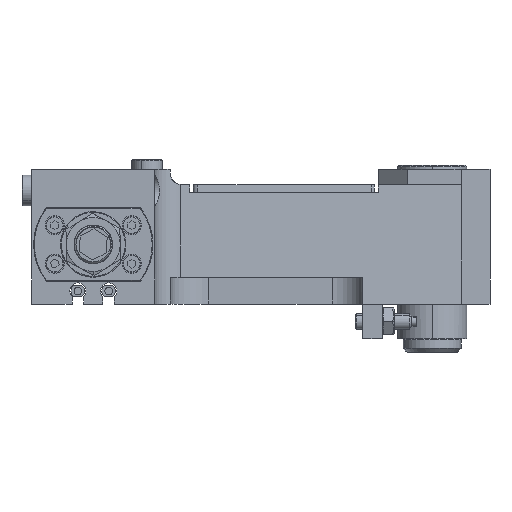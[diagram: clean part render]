
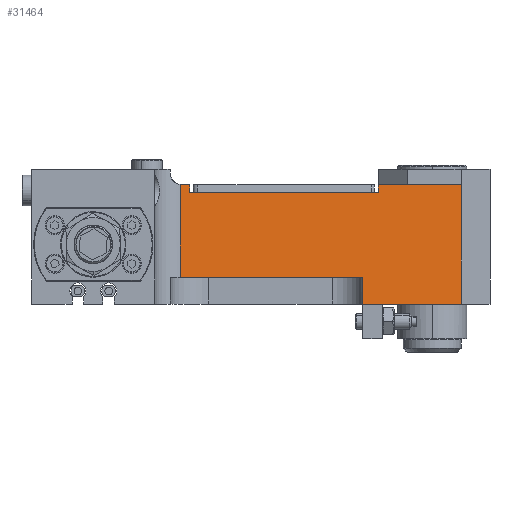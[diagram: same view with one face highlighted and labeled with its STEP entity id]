
A CAD part, left-side view. The second image highlights one B-rep face of the part: STEP entity #31464.
In plain terms, the highlighted planar face has unit normal (-0.985, -0.174, 0).
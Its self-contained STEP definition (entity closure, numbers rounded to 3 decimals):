
#667 = EDGE_CURVE ( 'NONE', #32571, #38422, #15158, .T. ) ;
#1738 = EDGE_CURVE ( 'NONE', #38422, #22868, #35104, .T. ) ;
#2967 = CARTESIAN_POINT ( 'NONE',  ( -18.791, -30.5, -22. ) ) ;
#4481 = DIRECTION ( 'NONE',  ( -0.174, 0.985, 0. ) ) ;
#4629 = DIRECTION ( 'NONE',  ( 0.985, 0.174, 0. ) ) ;
#5507 = CARTESIAN_POINT ( 'NONE',  ( -19.496, -26.5, -22. ) ) ;
#6098 = DIRECTION ( 'NONE',  ( -0.174, 0.985, 0. ) ) ;
#6336 = CARTESIAN_POINT ( 'NONE',  ( -29.018, 27.5, -13. ) ) ;
#7229 = DIRECTION ( 'NONE',  ( 0., 0., -1. ) ) ;
#7759 = LINE ( 'NONE', #2967, #27800 ) ;
#8170 = EDGE_CURVE ( 'NONE', #32202, #30604, #40549, .T. ) ;
#9395 = DIRECTION ( 'NONE',  ( 0., 0., -1. ) ) ;
#9726 = VECTOR ( 'NONE', #55033, 1000. ) ;
#9984 = CARTESIAN_POINT ( 'NONE',  ( -27.852, 20.889, -13. ) ) ;
#10786 = EDGE_CURVE ( 'NONE', #19759, #30604, #31637, .T. ) ;
#10824 = DIRECTION ( 'NONE',  ( -0.174, 0.985, 0. ) ) ;
#11276 = CARTESIAN_POINT ( 'NONE',  ( -27.852, 20.889, -6. ) ) ;
#12258 = VERTEX_POINT ( 'NONE', #23134 ) ;
#12491 = VECTOR ( 'NONE', #40455, 1000. ) ;
#12812 = AXIS2_PLACEMENT_3D ( 'NONE', #51221, #4629, #43044 ) ;
#13697 = CARTESIAN_POINT ( 'NONE',  ( -18.791, -30.5, 18. ) ) ;
#14056 = CARTESIAN_POINT ( 'NONE',  ( -15., -52., -13. ) ) ;
#14079 = EDGE_LOOP ( 'NONE', ( #51744, #48106, #15444, #43368, #45741, #27483, #23102, #41202, #26234, #47029, #52167 ) ) ;
#14202 = EDGE_CURVE ( 'NONE', #22868, #28997, #37465, .T. ) ;
#14335 = CARTESIAN_POINT ( 'NONE',  ( -27.852, 20.889, 18.025 ) ) ;
#14407 = CARTESIAN_POINT ( 'NONE',  ( -23.44, -4.133, 18. ) ) ;
#15158 = LINE ( 'NONE', #14407, #35848 ) ;
#15444 = ORIENTED_EDGE ( 'NONE', *, *, #14202, .T. ) ;
#16841 = CARTESIAN_POINT ( 'NONE',  ( -19.496, -26.5, -6. ) ) ;
#17897 = LINE ( 'NONE', #18589, #37218 ) ;
#18553 = CARTESIAN_POINT ( 'NONE',  ( -27.784, 20.5, 18. ) ) ;
#18589 = CARTESIAN_POINT ( 'NONE',  ( -29.018, 27.5, 16. ) ) ;
#18843 = VECTOR ( 'NONE', #48549, 1000. ) ;
#19572 = VECTOR ( 'NONE', #50418, 1000. ) ;
#19663 = LINE ( 'NONE', #31608, #49630 ) ;
#19727 = EDGE_CURVE ( 'NONE', #32202, #54524, #49086, .T. ) ;
#19759 = VERTEX_POINT ( 'NONE', #16841 ) ;
#20622 = CARTESIAN_POINT ( 'NONE',  ( -19.496, -26.5, -13. ) ) ;
#20627 = CARTESIAN_POINT ( 'NONE',  ( -27.431, 18.5, -22. ) ) ;
#22868 = VERTEX_POINT ( 'NONE', #14335 ) ;
#23005 = CARTESIAN_POINT ( 'NONE',  ( -27.83, 20.76, 18.008 ) ) ;
#23102 = ORIENTED_EDGE ( 'NONE', *, *, #19727, .T. ) ;
#23134 = CARTESIAN_POINT ( 'NONE',  ( -18.791, -30.5, 16. ) ) ;
#25243 = CARTESIAN_POINT ( 'NONE',  ( -15., -52., -22. ) ) ;
#25834 = CARTESIAN_POINT ( 'NONE',  ( -27.784, 20.5, 18. ) ) ;
#26234 = ORIENTED_EDGE ( 'NONE', *, *, #43026, .T. ) ;
#27094 = FACE_OUTER_BOUND ( 'NONE', #14079, .T. ) ;
#27483 = ORIENTED_EDGE ( 'NONE', *, *, #8170, .F. ) ;
#27800 = VECTOR ( 'NONE', #7229, 1000. ) ;
#27890 = VECTOR ( 'NONE', #4481, 1000. ) ;
#28927 = LINE ( 'NONE', #20627, #19572 ) ;
#28997 = VERTEX_POINT ( 'NONE', #11276 ) ;
#29286 = VERTEX_POINT ( 'NONE', #13697 ) ;
#29749 = EDGE_CURVE ( 'NONE', #54524, #29286, #48561, .T. ) ;
#29775 = EDGE_CURVE ( 'NONE', #51203, #12258, #17897, .T. ) ;
#29828 = CARTESIAN_POINT ( 'NONE',  ( -23.44, -4.133, 18. ) ) ;
#30604 = VERTEX_POINT ( 'NONE', #20622 ) ;
#31464 = ADVANCED_FACE ( 'NONE', ( #27094 ), #55318, .F. ) ;
#31608 = CARTESIAN_POINT ( 'NONE',  ( -29.018, 27.5, -6. ) ) ;
#31637 = LINE ( 'NONE', #5507, #46981 ) ;
#32202 = VERTEX_POINT ( 'NONE', #14056 ) ;
#32571 = VERTEX_POINT ( 'NONE', #46961 ) ;
#33184 = EDGE_CURVE ( 'NONE', #19759, #28997, #19663, .T. ) ;
#33436 = CARTESIAN_POINT ( 'NONE',  ( -27.431, 18.5, 16. ) ) ;
#33610 = CARTESIAN_POINT ( 'NONE',  ( -15., -52., 18. ) ) ;
#35104 =( BOUNDED_CURVE ( )  B_SPLINE_CURVE ( 3, ( #18553, #48518, #23005, #52278 ),
 .UNSPECIFIED., .F., .F. ) 
 B_SPLINE_CURVE_WITH_KNOTS ( ( 4, 4 ),
 ( 4.712, 4.842 ),
 .UNSPECIFIED. ) 
 CURVE ( )  GEOMETRIC_REPRESENTATION_ITEM ( )  RATIONAL_B_SPLINE_CURVE ( ( 1., 0.999, 0.999, 1. ) ) 
 REPRESENTATION_ITEM ( '' )  );
#35389 = EDGE_CURVE ( 'NONE', #51203, #32571, #28927, .T. ) ;
#35848 = VECTOR ( 'NONE', #10824, 1000. ) ;
#37218 = VECTOR ( 'NONE', #39268, 1000. ) ;
#37465 = LINE ( 'NONE', #9984, #18843 ) ;
#38422 = VERTEX_POINT ( 'NONE', #25834 ) ;
#39268 = DIRECTION ( 'NONE',  ( 0.174, -0.985, 0. ) ) ;
#40455 = DIRECTION ( 'NONE',  ( -0.174, 0.985, 0. ) ) ;
#40549 = LINE ( 'NONE', #6336, #12491 ) ;
#41202 = ORIENTED_EDGE ( 'NONE', *, *, #29749, .T. ) ;
#43026 = EDGE_CURVE ( 'NONE', #29286, #12258, #7759, .T. ) ;
#43044 = DIRECTION ( 'NONE',  ( -0.174, 0.985, 0. ) ) ;
#43368 = ORIENTED_EDGE ( 'NONE', *, *, #33184, .F. ) ;
#45741 = ORIENTED_EDGE ( 'NONE', *, *, #10786, .T. ) ;
#46961 = CARTESIAN_POINT ( 'NONE',  ( -27.431, 18.5, 18. ) ) ;
#46981 = VECTOR ( 'NONE', #9395, 1000. ) ;
#47029 = ORIENTED_EDGE ( 'NONE', *, *, #29775, .F. ) ;
#48106 = ORIENTED_EDGE ( 'NONE', *, *, #1738, .T. ) ;
#48518 = CARTESIAN_POINT ( 'NONE',  ( -27.807, 20.63, 18. ) ) ;
#48549 = DIRECTION ( 'NONE',  ( 0., 0., -1. ) ) ;
#48561 = LINE ( 'NONE', #29828, #27890 ) ;
#49086 = LINE ( 'NONE', #25243, #9726 ) ;
#49630 = VECTOR ( 'NONE', #6098, 1000. ) ;
#50418 = DIRECTION ( 'NONE',  ( 0., 0., 1. ) ) ;
#51203 = VERTEX_POINT ( 'NONE', #33436 ) ;
#51221 = CARTESIAN_POINT ( 'NONE',  ( -29.018, 27.5, -22. ) ) ;
#51744 = ORIENTED_EDGE ( 'NONE', *, *, #667, .T. ) ;
#52167 = ORIENTED_EDGE ( 'NONE', *, *, #35389, .T. ) ;
#52278 = CARTESIAN_POINT ( 'NONE',  ( -27.852, 20.889, 18.025 ) ) ;
#54524 = VERTEX_POINT ( 'NONE', #33610 ) ;
#55033 = DIRECTION ( 'NONE',  ( 0., 0., 1. ) ) ;
#55318 = PLANE ( 'NONE',  #12812 ) ;
